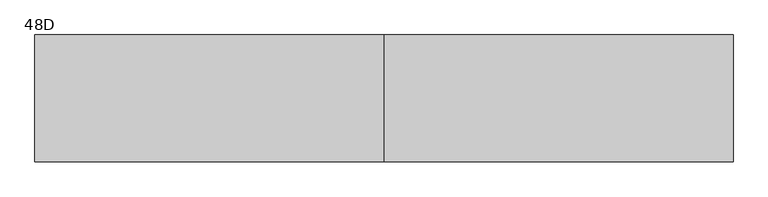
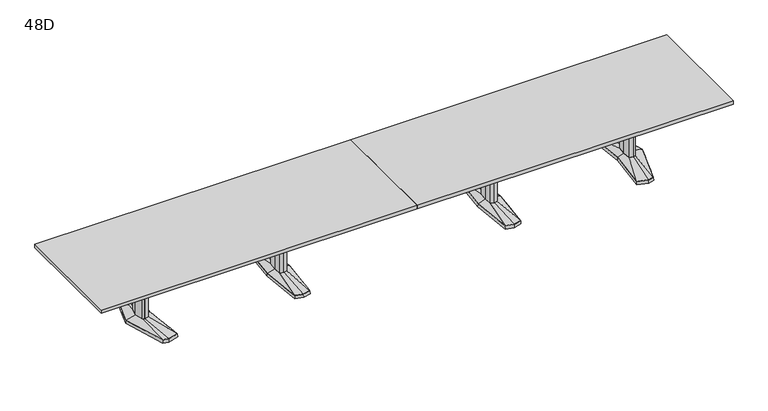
"""IFC4 building model written with IfcOpenShell, lengths in millimetres: furniture geometry, Coalesse_AM_Table_Conference_ETable2_Rectangular_22ft_AluminiumBase : 48D."""

from ifc_helpers import new_model, si_unit, frame, origin, place, context, project, spatial, polyline, outline, extrude, faceted_brep, source, transform, mapped, element, save
from ifc_brep_helpers import plane_surface, spline_surface, advanced_brep


def furniture_48d_4e825bd2(model_context):
    return source(origin(), model_context, "Body", "SolidModel", [
        faceted_brep([(1036.3666209, -433.8053819, 38.1), (1117.6, -455.556576, 38.1), (1198.8333791, -433.8053819, 38.1), (1236.6564774, 0.0, 38.1), (1198.8333791, 433.8053819, 38.1), (1117.6, 455.556576, 38.1), (1036.3666209, 433.8053819, 38.1), (998.5435226, 0.0, 38.1), (1034.8817205, -435.0512063, 3.175), (996.95, 0.0, 3.175), (1034.8817205, 435.0512063, 3.175), (1117.6, 457.2, 3.175), (1200.3182795, 435.0512063, 3.175), (1238.25, 0.0, 3.175), (1200.3182795, -435.0512063, 3.175), (1117.6, -457.2, 3.175), (1117.6, 429.2617927, 3.175), (1039.6323194, 408.3850278, 3.175), (1042.8980179, 382.9646737, 3.175), (1117.6, 402.9670094, 3.175), (1192.3019821, 382.9646737, 3.175), (1195.5676806, 408.3850278, 3.175), (1117.6, -429.2617927, 3.175), (1195.5676806, -408.3850278, 3.175), (1192.3019821, -382.9646737, 3.175), (1117.6, -402.9670094, 3.175), (1042.8980179, -382.9646737, 3.175), (1039.6323194, -408.3850278, 3.175), (1045.7425738, 114.6326257, 3.175), (1035.0573924, 0.0, 3.175), (1045.7425738, -114.6326257, 3.175), (1117.6, -133.8761372, 3.175), (1189.4574262, -114.6326257, 3.175), (1200.1426076, 0.0, 3.175), (1189.4574262, 114.6326257, 3.175), (1117.6, 133.8761372, 3.175), (1117.6, 429.2617927, 0.0), (1195.5676806, 408.3850278, 0.0), (1192.3019821, 382.9646737, 0.0), (1117.6, 402.9670094, 0.0), (1042.8980179, 382.9646737, 0.0), (1039.6323194, 408.3850278, 0.0), (1117.6, -429.2617927, 0.0), (1039.6323194, -408.3850278, 0.0), (1042.8980179, -382.9646737, 0.0), (1117.6, -402.9670094, 0.0), (1192.3019821, -382.9646737, 0.0), (1195.5676806, -408.3850278, 0.0), (1045.7425738, 114.6326257, 0.0), (1117.6, 133.8761372, 0.0), (1189.4574262, 114.6326257, 0.0), (1200.1426076, 0.0, 0.0), (1189.4574262, -114.6326257, 0.0), (1117.6, -133.8761372, 0.0), (1045.7425738, -114.6326257, 0.0), (1035.0573924, 0.0, 0.0)], [[[0, 1, 2, 3, 4, 5, 6, 7]], [[8, 9, 10, 11, 12, 13, 14, 15], [16, 17, 18, 19, 20, 21], [22, 23, 24, 25, 26, 27], [28, 29, 30, 31, 32, 33, 34, 35]], [[1, 0, 8, 15]], [[2, 1, 15, 14]], [[3, 2, 14, 13]], [[4, 3, 13, 12]], [[5, 4, 12, 11]], [[6, 5, 11, 10]], [[7, 6, 10, 9]], [[0, 7, 9, 8]], [[36, 37, 38, 39, 40, 41]], [[42, 43, 44, 45, 46, 47]], [[48, 49, 50, 51, 52, 53, 54, 55]], [[36, 41, 17, 16]], [[41, 40, 18, 17]], [[40, 39, 19, 18]], [[39, 38, 20, 19]], [[38, 37, 21, 20]], [[37, 36, 16, 21]], [[42, 47, 23, 22]], [[47, 46, 24, 23]], [[46, 45, 25, 24]], [[45, 44, 26, 25]], [[44, 43, 27, 26]], [[43, 42, 22, 27]], [[48, 55, 29, 28]], [[55, 54, 30, 29]], [[54, 53, 31, 30]], [[53, 52, 32, 31]], [[52, 51, 33, 32]], [[51, 50, 34, 33]], [[50, 49, 35, 34]], [[49, 48, 28, 35]]]),
        faceted_brep([(1081.2167166, 84.6900825, 698.5), (1073.3225513, 0.0, 698.5), (1081.2167166, -84.6900825, 698.5), (1117.6, -94.4335728, 698.5), (1153.9832834, -84.6900825, 698.5), (1161.8774487, 0.0, 698.5), (1153.9832834, 84.6900825, 698.5), (1117.6, 94.4335728, 698.5), (1081.2167166, 84.6900825, 63.5), (1117.6, 94.4335728, 63.5), (1153.9832834, 84.6900825, 63.5), (1161.8774487, 0.0, 63.5), (1153.9832834, -84.6900825, 63.5), (1117.6, -94.4335728, 63.5), (1081.2167166, -84.6900825, 63.5), (1073.3225513, 0.0, 63.5)], [[[0, 1, 2, 3, 4, 5, 6, 7]], [[8, 9, 10, 11, 12, 13, 14, 15]], [[1, 0, 8, 15]], [[2, 1, 15, 14]], [[3, 2, 14, 13]], [[4, 3, 13, 12]], [[5, 4, 12, 11]], [[6, 5, 11, 10]], [[7, 6, 10, 9]], [[0, 7, 9, 8]]]),
        advanced_brep(
        [(1081.2167166, 84.6900825, 63.5), (1073.3225513, 0.0, 63.5), (1081.2167166, -84.6900825, 63.5), (1117.6, -94.4335728, 63.5), (1153.9832834, -84.6900825, 63.5), (1161.8774487, 0.0, 63.5), (1153.9832834, 84.6900825, 63.5), (1117.6, 94.4335728, 63.5), (1036.3666209, 433.8053819, 38.1), (1117.6, 455.556576, 38.1), (1198.8333791, 433.8053819, 38.1), (1236.6564774, 0.0, 38.1), (1198.8333791, -433.8053819, 38.1), (1117.6, -455.556576, 38.1), (1036.3666209, -433.8053819, 38.1), (998.5435226, 0.0, 38.1)],
        [
            (0, 1),
            (1, 2),
            (2, 3),
            (3, 4),
            (4, 5),
            (5, 6),
            (6, 7),
            (7, 0),
            (8, 9),
            (9, 10),
            (10, 11),
            (11, 12),
            (12, 13),
            (13, 14),
            (14, 15),
            (15, 8),
            (15, 1),
            (0, 8),
            (14, 2),
            (13, 3),
            (12, 4),
            (11, 5),
            (10, 6),
            (9, 7),
        ],
        [
            plane_surface(frame((1117.6, 0.0, 63.5), z_axis=(0.0, 0.0, 1.0000000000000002), x_axis=(-0.9659615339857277, -0.25868574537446, 0.0))),
            plane_surface(frame((1117.6, 0.0, 38.1), z_axis=(0.0, 0.0, -1.0000000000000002), x_axis=(-0.9659615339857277, -0.25868574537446, 0.0))),
            spline_surface(1, 1, [[(1036.3666209, 433.8053819, 38.1), (1081.2167166, 84.6900825, 63.5)], [(998.5435226, 0.0, 38.1), (1073.3225513, 0.0, 63.5)]], [2, 2], [2, 2], [0.0, 1.0], [0.0, 1.0]),
            spline_surface(1, 1, [[(998.5435226, 0.0, 38.1), (1073.3225513, 0.0, 63.5)], [(1036.3666209, -433.8053819, 38.1), (1081.2167166, -84.6900825, 63.5)]], [2, 2], [2, 2], [0.0, 1.0], [0.0, 1.0]),
            spline_surface(1, 1, [[(1036.3666209, -433.8053819, 38.1), (1081.2167166, -84.6900825, 63.5)], [(1117.6, -455.556576, 38.1), (1117.6, -94.4335728, 63.5)]], [2, 2], [2, 2], [0.0, 1.0], [0.0, 1.0]),
            spline_surface(1, 1, [[(1117.6, -455.556576, 38.1), (1117.6, -94.4335728, 63.5)], [(1198.8333791, -433.8053819, 38.1), (1153.9832834, -84.6900825, 63.5)]], [2, 2], [2, 2], [0.0, 1.0], [0.0, 1.0]),
            spline_surface(1, 1, [[(1198.8333791, -433.8053819, 38.1), (1153.9832834, -84.6900825, 63.5)], [(1236.6564774, 0.0, 38.1), (1161.8774487, 0.0, 63.5)]], [2, 2], [2, 2], [0.0, 1.0], [0.0, 1.0]),
            spline_surface(1, 1, [[(1236.6564774, 0.0, 38.1), (1161.8774487, 0.0, 63.5)], [(1198.8333791, 433.8053819, 38.1), (1153.9832834, 84.6900825, 63.5)]], [2, 2], [2, 2], [0.0, 1.0], [0.0, 1.0]),
            spline_surface(1, 1, [[(1198.8333791, 433.8053819, 38.1), (1153.9832834, 84.6900825, 63.5)], [(1117.6, 455.556576, 38.1), (1117.6, 94.4335728, 63.5)]], [2, 2], [2, 2], [0.0, 1.0], [0.0, 1.0]),
            spline_surface(1, 1, [[(1117.6, 455.556576, 38.1), (1117.6, 94.4335728, 63.5)], [(1036.3666209, 433.8053819, 38.1), (1081.2167166, 84.6900825, 63.5)]], [2, 2], [2, 2], [0.0, 1.0], [0.0, 1.0]),
        ],
        [
            (0, [[1, 2, 3, 4, 5, 6, 7, 8]]),
            (1, [[9, 10, 11, 12, 13, 14, 15, 16]]),
            (2, [[-16, 17, -1, 18]]),
            (3, [[-15, 19, -2, -17]]),
            (4, [[-14, 20, -3, -19]]),
            (5, [[-13, 21, -4, -20]]),
            (6, [[-12, 22, -5, -21]]),
            (7, [[-11, 23, -6, -22]]),
            (8, [[-10, 24, -7, -23]]),
            (9, [[-9, -18, -8, -24]]),
        ],
    ),
        faceted_brep([(-1198.8333791, -433.8053819, 38.1), (-1117.6, -455.556576, 38.1), (-1036.3666209, -433.8053819, 38.1), (-998.5435226, 0.0, 38.1), (-1036.3666209, 433.8053819, 38.1), (-1117.6, 455.556576, 38.1), (-1198.8333791, 433.8053819, 38.1), (-1236.6564774, 0.0, 38.1), (-1200.3182795, -435.0512063, 3.175), (-1238.25, 0.0, 3.175), (-1200.3182795, 435.0512063, 3.175), (-1117.6, 457.2, 3.175), (-1034.8817205, 435.0512063, 3.175), (-996.95, 0.0, 3.175), (-1034.8817205, -435.0512063, 3.175), (-1117.6, -457.2, 3.175), (-1117.6, 429.2617927, 3.175), (-1195.5676806, 408.3850278, 3.175), (-1192.3019821, 382.9646737, 3.175), (-1117.6, 402.9670094, 3.175), (-1042.8980179, 382.9646737, 3.175), (-1039.6323194, 408.3850278, 3.175), (-1117.6, -429.2617927, 3.175), (-1039.6323194, -408.3850278, 3.175), (-1042.8980179, -382.9646737, 3.175), (-1117.6, -402.9670094, 3.175), (-1192.3019821, -382.9646737, 3.175), (-1195.5676806, -408.3850278, 3.175), (-1189.4574262, 114.6326257, 3.175), (-1200.1426076, 0.0, 3.175), (-1189.4574262, -114.6326257, 3.175), (-1117.6, -133.8761372, 3.175), (-1045.7425738, -114.6326257, 3.175), (-1035.0573924, 0.0, 3.175), (-1045.7425738, 114.6326257, 3.175), (-1117.6, 133.8761372, 3.175), (-1117.6, 429.2617927, 0.0), (-1039.6323194, 408.3850278, 0.0), (-1042.8980179, 382.9646737, 0.0), (-1117.6, 402.9670094, 0.0), (-1192.3019821, 382.9646737, 0.0), (-1195.5676806, 408.3850278, 0.0), (-1117.6, -429.2617927, 0.0), (-1195.5676806, -408.3850278, 0.0), (-1192.3019821, -382.9646737, 0.0), (-1117.6, -402.9670094, 0.0), (-1042.8980179, -382.9646737, 0.0), (-1039.6323194, -408.3850278, 0.0), (-1189.4574262, 114.6326257, 0.0), (-1117.6, 133.8761372, 0.0), (-1045.7425738, 114.6326257, 0.0), (-1035.0573924, 0.0, 0.0), (-1045.7425738, -114.6326257, 0.0), (-1117.6, -133.8761372, 0.0), (-1189.4574262, -114.6326257, 0.0), (-1200.1426076, 0.0, 0.0)], [[[0, 1, 2, 3, 4, 5, 6, 7]], [[8, 9, 10, 11, 12, 13, 14, 15], [16, 17, 18, 19, 20, 21], [22, 23, 24, 25, 26, 27], [28, 29, 30, 31, 32, 33, 34, 35]], [[1, 0, 8, 15]], [[2, 1, 15, 14]], [[3, 2, 14, 13]], [[4, 3, 13, 12]], [[5, 4, 12, 11]], [[6, 5, 11, 10]], [[7, 6, 10, 9]], [[0, 7, 9, 8]], [[36, 37, 38, 39, 40, 41]], [[42, 43, 44, 45, 46, 47]], [[48, 49, 50, 51, 52, 53, 54, 55]], [[36, 41, 17, 16]], [[41, 40, 18, 17]], [[40, 39, 19, 18]], [[39, 38, 20, 19]], [[38, 37, 21, 20]], [[37, 36, 16, 21]], [[42, 47, 23, 22]], [[47, 46, 24, 23]], [[46, 45, 25, 24]], [[45, 44, 26, 25]], [[44, 43, 27, 26]], [[43, 42, 22, 27]], [[48, 55, 29, 28]], [[55, 54, 30, 29]], [[54, 53, 31, 30]], [[53, 52, 32, 31]], [[52, 51, 33, 32]], [[51, 50, 34, 33]], [[50, 49, 35, 34]], [[49, 48, 28, 35]]]),
        faceted_brep([(-1153.9832834, 84.6900825, 698.5), (-1161.8774487, 0.0, 698.5), (-1153.9832834, -84.6900825, 698.5), (-1117.6, -94.4335728, 698.5), (-1081.2167166, -84.6900825, 698.5), (-1073.3225513, 0.0, 698.5), (-1081.2167166, 84.6900825, 698.5), (-1117.6, 94.4335728, 698.5), (-1153.9832834, 84.6900825, 63.5), (-1117.6, 94.4335728, 63.5), (-1081.2167166, 84.6900825, 63.5), (-1073.3225513, 0.0, 63.5), (-1081.2167166, -84.6900825, 63.5), (-1117.6, -94.4335728, 63.5), (-1153.9832834, -84.6900825, 63.5), (-1161.8774487, 0.0, 63.5)], [[[0, 1, 2, 3, 4, 5, 6, 7]], [[8, 9, 10, 11, 12, 13, 14, 15]], [[1, 0, 8, 15]], [[2, 1, 15, 14]], [[3, 2, 14, 13]], [[4, 3, 13, 12]], [[5, 4, 12, 11]], [[6, 5, 11, 10]], [[7, 6, 10, 9]], [[0, 7, 9, 8]]]),
        advanced_brep(
        [(-1153.9832834, 84.6900825, 63.5), (-1161.8774487, 0.0, 63.5), (-1153.9832834, -84.6900825, 63.5), (-1117.6, -94.4335728, 63.5), (-1081.2167166, -84.6900825, 63.5), (-1073.3225513, 0.0, 63.5), (-1081.2167166, 84.6900825, 63.5), (-1117.6, 94.4335728, 63.5), (-1198.8333791, 433.8053819, 38.1), (-1117.6, 455.556576, 38.1), (-1036.3666209, 433.8053819, 38.1), (-998.5435226, 0.0, 38.1), (-1036.3666209, -433.8053819, 38.1), (-1117.6, -455.556576, 38.1), (-1198.8333791, -433.8053819, 38.1), (-1236.6564774, 0.0, 38.1)],
        [
            (0, 1),
            (1, 2),
            (2, 3),
            (3, 4),
            (4, 5),
            (5, 6),
            (6, 7),
            (7, 0),
            (8, 9),
            (9, 10),
            (10, 11),
            (11, 12),
            (12, 13),
            (13, 14),
            (14, 15),
            (15, 8),
            (15, 1),
            (0, 8),
            (14, 2),
            (13, 3),
            (12, 4),
            (11, 5),
            (10, 6),
            (9, 7),
        ],
        [
            plane_surface(frame((-1117.6, 0.0, 63.5), z_axis=(0.0, 0.0, 1.0000000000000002), x_axis=(-0.9659615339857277, -0.25868574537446, 0.0))),
            plane_surface(frame((-1117.6, 0.0, 38.1), z_axis=(0.0, 0.0, -1.0000000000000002), x_axis=(-0.9659615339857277, -0.25868574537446, 0.0))),
            spline_surface(1, 1, [[(-1198.8333791, 433.8053819, 38.1), (-1153.9832834, 84.6900825, 63.5)], [(-1236.6564774, 0.0, 38.1), (-1161.8774487, 0.0, 63.5)]], [2, 2], [2, 2], [0.0, 1.0], [0.0, 1.0]),
            spline_surface(1, 1, [[(-1236.6564774, 0.0, 38.1), (-1161.8774487, 0.0, 63.5)], [(-1198.8333791, -433.8053819, 38.1), (-1153.9832834, -84.6900825, 63.5)]], [2, 2], [2, 2], [0.0, 1.0], [0.0, 1.0]),
            spline_surface(1, 1, [[(-1198.8333791, -433.8053819, 38.1), (-1153.9832834, -84.6900825, 63.5)], [(-1117.6, -455.556576, 38.1), (-1117.6, -94.4335728, 63.5)]], [2, 2], [2, 2], [0.0, 1.0], [0.0, 1.0]),
            spline_surface(1, 1, [[(-1117.6, -455.556576, 38.1), (-1117.6, -94.4335728, 63.5)], [(-1036.3666209, -433.8053819, 38.1), (-1081.2167166, -84.6900825, 63.5)]], [2, 2], [2, 2], [0.0, 1.0], [0.0, 1.0]),
            spline_surface(1, 1, [[(-1036.3666209, -433.8053819, 38.1), (-1081.2167166, -84.6900825, 63.5)], [(-998.5435226, 0.0, 38.1), (-1073.3225513, 0.0, 63.5)]], [2, 2], [2, 2], [0.0, 1.0], [0.0, 1.0]),
            spline_surface(1, 1, [[(-998.5435226, 0.0, 38.1), (-1073.3225513, 0.0, 63.5)], [(-1036.3666209, 433.8053819, 38.1), (-1081.2167166, 84.6900825, 63.5)]], [2, 2], [2, 2], [0.0, 1.0], [0.0, 1.0]),
            spline_surface(1, 1, [[(-1036.3666209, 433.8053819, 38.1), (-1081.2167166, 84.6900825, 63.5)], [(-1117.6, 455.556576, 38.1), (-1117.6, 94.4335728, 63.5)]], [2, 2], [2, 2], [0.0, 1.0], [0.0, 1.0]),
            spline_surface(1, 1, [[(-1117.6, 455.556576, 38.1), (-1117.6, 94.4335728, 63.5)], [(-1198.8333791, 433.8053819, 38.1), (-1153.9832834, 84.6900825, 63.5)]], [2, 2], [2, 2], [0.0, 1.0], [0.0, 1.0]),
        ],
        [
            (0, [[1, 2, 3, 4, 5, 6, 7, 8]]),
            (1, [[9, 10, 11, 12, 13, 14, 15, 16]]),
            (2, [[-16, 17, -1, 18]]),
            (3, [[-15, 19, -2, -17]]),
            (4, [[-14, 20, -3, -19]]),
            (5, [[-13, 21, -4, -20]]),
            (6, [[-12, 22, -5, -21]]),
            (7, [[-11, 23, -6, -22]]),
            (8, [[-10, 24, -7, -23]]),
            (9, [[-9, -18, -8, -24]]),
        ],
    ),
        faceted_brep([(2548.0994335, 455.5848221, 38.1), (2438.5218777, 426.2263816, 38.1), (2479.6851217, 0.0, 38.1), (2438.5218777, -426.2263816, 38.1), (2548.0994335, -455.5848221, 38.1), (2604.2257896, -440.5478297, 38.1), (2741.5371769, 0.0, 38.1), (2604.2257896, 440.5478297, 38.1), (2548.0994254, 457.2283104, 3.175), (2605.4811972, 441.8549756, 3.175), (2743.2, 0.0, 3.175), (2605.4811972, -441.8549756, 3.175), (2548.0994254, -457.2283104, 3.175), (2436.8125, -427.4118891, 3.175), (2478.0902356, 0.0, 3.175), (2436.8125, 427.4118891, 3.175), (2551.688865, 428.3273875, 3.175), (2446.6405728, 402.1057253, 3.175), (2454.759268, 377.985069, 3.175), (2555.2782966, 401.0699529, 3.175), (2605.8379225, 387.524361, 3.175), (2605.0318561, 414.0360954, 3.175), (2551.688865, -428.3273875, 3.175), (2605.0318561, -414.0360954, 3.175), (2605.8379225, -387.524361, 3.175), (2555.2782966, -401.0699529, 3.175), (2454.759268, -377.985069, 3.175), (2446.6405728, -402.1057253, 3.175), (2678.2841121, 0.0, 3.175), (2646.0147111, 120.4193755, 3.175), (2597.3674722, 133.471665, 3.175), (2517.4868026, 119.4176561, 3.175), (2506.3555966, 0.0, 3.175), (2517.4868026, -119.4176561, 3.175), (2597.3674722, -133.471665, 3.175), (2646.0147111, -120.4193755, 3.175), (2551.688865, 428.3273875, 0.0), (2605.0318561, 414.0360954, 0.0), (2605.8379225, 387.524361, 0.0), (2555.2782966, 401.0699529, 0.0), (2454.759268, 377.985069, 0.0), (2446.6405728, 402.1057253, 0.0), (2551.688865, -428.3273875, 0.0), (2446.6405728, -402.1057253, 0.0), (2454.759268, -377.985069, 0.0), (2555.2782966, -401.0699529, 0.0), (2605.8379225, -387.524361, 0.0), (2605.0318561, -414.0360954, 0.0), (2678.2841121, 0.0, 0.0), (2646.0147111, -120.4193755, 0.0), (2597.3674722, -133.471665, 0.0), (2517.4868026, -119.4176561, 0.0), (2506.3555966, 0.0, 0.0), (2517.4868026, 119.4176561, 0.0), (2597.3674722, 133.471665, 0.0), (2646.0147111, 120.4193755, 0.0)], [[[0, 1, 2, 3, 4, 5, 6, 7]], [[8, 9, 10, 11, 12, 13, 14, 15], [16, 17, 18, 19, 20, 21], [22, 23, 24, 25, 26, 27], [28, 29, 30, 31, 32, 33, 34, 35]], [[7, 9, 8, 0]], [[6, 10, 9, 7]], [[5, 11, 10, 6]], [[4, 12, 11, 5]], [[3, 13, 12, 4]], [[2, 14, 13, 3]], [[1, 15, 14, 2]], [[0, 8, 15, 1]], [[36, 37, 38, 39, 40, 41]], [[42, 43, 44, 45, 46, 47]], [[48, 49, 50, 51, 52, 53, 54, 55]], [[36, 16, 21, 37]], [[37, 21, 20, 38]], [[38, 20, 19, 39]], [[39, 19, 18, 40]], [[40, 18, 17, 41]], [[41, 17, 16, 36]], [[42, 22, 27, 43]], [[43, 27, 26, 44]], [[44, 26, 25, 45]], [[45, 25, 24, 46]], [[46, 24, 23, 47]], [[47, 23, 22, 42]], [[48, 28, 35, 49]], [[49, 35, 34, 50]], [[50, 34, 33, 51]], [[51, 33, 32, 52]], [[52, 32, 31, 53]], [[53, 31, 30, 54]], [[54, 30, 29, 55]], [[55, 29, 28, 48]]]),
        faceted_brep([(2638.8398336, 0.0, 698.5), (2614.9046046, 89.3188359, 698.5), (2598.0512484, 93.8406728, 698.5), (2595.6514011, 94.4845635, 698.5), (2552.723896, 86.9320037, 698.5), (2544.6207556, 0.0, 698.5), (2552.723896, -86.9320037, 698.5), (2595.6514011, -94.4845635, 698.5), (2598.0512484, -93.8406728, 698.5), (2614.9046046, -89.3188359, 698.5), (2638.8398336, 0.0, 63.5), (2614.9046046, -89.3188359, 63.5), (2598.0512484, -93.8406728, 63.5), (2595.6514011, -94.4845635, 63.5), (2552.723896, -86.9320037, 63.5), (2544.6207556, 0.0, 63.5), (2552.723896, 86.9320037, 63.5), (2595.6514011, 94.4845635, 63.5), (2598.0512484, 93.8406728, 63.5), (2614.9046046, 89.3188359, 63.5)], [[[0, 1, 2, 3, 4, 5, 6, 7, 8, 9]], [[10, 11, 12, 13, 14, 15, 16, 17, 18, 19]], [[9, 11, 10, 0]], [[8, 12, 11, 9]], [[7, 13, 12, 8]], [[6, 14, 13, 7]], [[5, 15, 14, 6]], [[4, 16, 15, 5]], [[3, 17, 16, 4]], [[2, 18, 17, 3]], [[1, 19, 18, 2]], [[0, 10, 19, 1]]]),
        advanced_brep(
        [(2595.6514011, 94.4845635, 63.5), (2552.723896, 86.9320037, 63.5), (2544.6207556, 0.0, 63.5), (2552.723896, -86.9320037, 63.5), (2595.6514011, -94.4845635, 63.5), (2614.9046046, -89.3188359, 63.5), (2638.8398336, 0.0, 63.5), (2614.9046046, 89.3188359, 63.5), (2548.0994335, 455.5848221, 38.1), (2604.2257896, 440.5478297, 38.1), (2741.5371769, 0.0, 38.1), (2604.2257896, -440.5478297, 38.1), (2548.0994335, -455.5848221, 38.1), (2438.5218777, -426.2263816, 38.1), (2479.6851217, 0.0, 38.1), (2438.5218777, 426.2263816, 38.1)],
        [
            (0, 1),
            (1, 2),
            (2, 3),
            (3, 4),
            (4, 5),
            (5, 6),
            (6, 7),
            (7, 0),
            (8, 9),
            (9, 10),
            (10, 11),
            (11, 12),
            (12, 13),
            (13, 14),
            (14, 15),
            (15, 8),
            (8, 0),
            (7, 9),
            (6, 10),
            (5, 11),
            (4, 12),
            (3, 13),
            (2, 14),
            (1, 15),
        ],
        [
            plane_surface(frame((2588.7525491, 0.0, 63.5), z_axis=(0.0, 0.0, 1.0), x_axis=(-0.25884244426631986, -0.9659195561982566, 0.0))),
            plane_surface(frame((2550.3645625, 0.0, 38.1), z_axis=(0.0, 0.0, -1.0), x_axis=(-0.25884244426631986, -0.9659195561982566, 0.0))),
            spline_surface(1, 1, [[(2548.0994335, 455.5848221, 38.1), (2604.2257896, 440.5478297, 38.1)], [(2595.6514011, 94.4845635, 63.5), (2614.9046046, 89.3188359, 63.5)]], [2, 2], [2, 2], [0.0, 1.0], [0.0, 1.0]),
            spline_surface(1, 1, [[(2604.2257896, 440.5478297, 38.1), (2741.5371769, 0.0, 38.1)], [(2614.9046046, 89.3188359, 63.5), (2638.8398336, 0.0, 63.5)]], [2, 2], [2, 2], [0.0, 1.0], [0.0, 1.0]),
            spline_surface(1, 1, [[(2741.5371769, 0.0, 38.1), (2604.2257896, -440.5478297, 38.1)], [(2638.8398336, 0.0, 63.5), (2614.9046046, -89.3188359, 63.5)]], [2, 2], [2, 2], [0.0, 1.0], [0.0, 1.0]),
            spline_surface(1, 1, [[(2604.2257896, -440.5478297, 38.1), (2548.0994335, -455.5848221, 38.1)], [(2614.9046046, -89.3188359, 63.5), (2595.6514011, -94.4845635, 63.5)]], [2, 2], [2, 2], [0.0, 1.0], [0.0, 1.0]),
            spline_surface(1, 1, [[(2548.0994335, -455.5848221, 38.1), (2438.5218777, -426.2263816, 38.1)], [(2595.6514011, -94.4845635, 63.5), (2552.723896, -86.9320037, 63.5)]], [2, 2], [2, 2], [0.0, 1.0], [0.0, 1.0]),
            spline_surface(1, 1, [[(2438.5218777, -426.2263816, 38.1), (2479.6851217, 0.0, 38.1)], [(2552.723896, -86.9320037, 63.5), (2544.6207556, 0.0, 63.5)]], [2, 2], [2, 2], [0.0, 1.0], [0.0, 1.0]),
            spline_surface(1, 1, [[(2479.6851217, 0.0, 38.1), (2438.5218777, 426.2263816, 38.1)], [(2544.6207556, 0.0, 63.5), (2552.723896, 86.9320037, 63.5)]], [2, 2], [2, 2], [0.0, 1.0], [0.0, 1.0]),
            spline_surface(1, 1, [[(2438.5218777, 426.2263816, 38.1), (2548.0994335, 455.5848221, 38.1)], [(2552.723896, 86.9320037, 63.5), (2595.6514011, 94.4845635, 63.5)]], [2, 2], [2, 2], [0.0, 1.0], [0.0, 1.0]),
        ],
        [
            (0, [[1, 2, 3, 4, 5, 6, 7, 8]]),
            (1, [[9, 10, 11, 12, 13, 14, 15, 16]]),
            (2, [[17, -8, 18, -9]]),
            (3, [[-18, -7, 19, -10]]),
            (4, [[-19, -6, 20, -11]]),
            (5, [[-20, -5, 21, -12]]),
            (6, [[-21, -4, 22, -13]]),
            (7, [[-22, -3, 23, -14]]),
            (8, [[-23, -2, 24, -15]]),
            (9, [[-24, -1, -17, -16]]),
        ],
    ),
        faceted_brep([(-2548.0994335, 455.5848221, 38.1), (-2604.2257896, 440.5478297, 38.1), (-2741.5371769, 0.0, 38.1), (-2604.2257896, -440.5478297, 38.1), (-2548.0994335, -455.5848221, 38.1), (-2438.5218777, -426.2263816, 38.1), (-2479.6851217, 0.0, 38.1), (-2438.5218777, 426.2263816, 38.1), (-2548.0994254, 457.2283104, 3.175), (-2436.8125, 427.4118891, 3.175), (-2478.0902356, 0.0, 3.175), (-2436.8125, -427.4118891, 3.175), (-2548.0994254, -457.2283104, 3.175), (-2605.4811972, -441.8549756, 3.175), (-2743.2, 0.0, 3.175), (-2605.4811972, 441.8549756, 3.175), (-2551.688865, 428.3273875, 3.175), (-2605.0318561, 414.0360954, 3.175), (-2605.8379225, 387.524361, 3.175), (-2555.2782966, 401.0699529, 3.175), (-2454.759268, 377.985069, 3.175), (-2446.6405728, 402.1057253, 3.175), (-2551.688865, -428.3273875, 3.175), (-2446.6405728, -402.1057253, 3.175), (-2454.759268, -377.985069, 3.175), (-2555.2782966, -401.0699529, 3.175), (-2605.8379225, -387.524361, 3.175), (-2605.0318561, -414.0360954, 3.175), (-2678.2841121, 0.0, 3.175), (-2646.0147111, -120.4193755, 3.175), (-2597.3674722, -133.471665, 3.175), (-2517.4868026, -119.4176561, 3.175), (-2506.3555966, 0.0, 3.175), (-2517.4868026, 119.4176561, 3.175), (-2597.3674722, 133.471665, 3.175), (-2646.0147111, 120.4193755, 3.175), (-2551.688865, 428.3273875, 0.0), (-2446.6405728, 402.1057253, 0.0), (-2454.759268, 377.985069, 0.0), (-2555.2782966, 401.0699529, 0.0), (-2605.8379225, 387.524361, 0.0), (-2605.0318561, 414.0360954, 0.0), (-2551.688865, -428.3273875, 0.0), (-2605.0318561, -414.0360954, 0.0), (-2605.8379225, -387.524361, 0.0), (-2555.2782966, -401.0699529, 0.0), (-2454.759268, -377.985069, 0.0), (-2446.6405728, -402.1057253, 0.0), (-2678.2841121, 0.0, 0.0), (-2646.0147111, 120.4193755, 0.0), (-2597.3674722, 133.471665, 0.0), (-2517.4868026, 119.4176561, 0.0), (-2506.3555966, 0.0, 0.0), (-2517.4868026, -119.4176561, 0.0), (-2597.3674722, -133.471665, 0.0), (-2646.0147111, -120.4193755, 0.0)], [[[0, 1, 2, 3, 4, 5, 6, 7]], [[8, 9, 10, 11, 12, 13, 14, 15], [16, 17, 18, 19, 20, 21], [22, 23, 24, 25, 26, 27], [28, 29, 30, 31, 32, 33, 34, 35]], [[1, 0, 8, 15]], [[2, 1, 15, 14]], [[3, 2, 14, 13]], [[4, 3, 13, 12]], [[5, 4, 12, 11]], [[6, 5, 11, 10]], [[7, 6, 10, 9]], [[0, 7, 9, 8]], [[36, 37, 38, 39, 40, 41]], [[42, 43, 44, 45, 46, 47]], [[48, 49, 50, 51, 52, 53, 54, 55]], [[36, 41, 17, 16]], [[41, 40, 18, 17]], [[40, 39, 19, 18]], [[39, 38, 20, 19]], [[38, 37, 21, 20]], [[37, 36, 16, 21]], [[42, 47, 23, 22]], [[47, 46, 24, 23]], [[46, 45, 25, 24]], [[45, 44, 26, 25]], [[44, 43, 27, 26]], [[43, 42, 22, 27]], [[48, 55, 29, 28]], [[55, 54, 30, 29]], [[54, 53, 31, 30]], [[53, 52, 32, 31]], [[52, 51, 33, 32]], [[51, 50, 34, 33]], [[50, 49, 35, 34]], [[49, 48, 28, 35]]]),
        faceted_brep([(-2638.8398336, 0.0, 698.5), (-2614.9046046, -89.3188359, 698.5), (-2598.0512484, -93.8406728, 698.5), (-2595.6514011, -94.4845635, 698.5), (-2552.723896, -86.9320037, 698.5), (-2544.6207556, 0.0, 698.5), (-2552.723896, 86.9320037, 698.5), (-2595.6514011, 94.4845635, 698.5), (-2598.0512484, 93.8406728, 698.5), (-2614.9046046, 89.3188359, 698.5), (-2638.8398336, 0.0, 63.5), (-2614.9046046, 89.3188359, 63.5), (-2598.0512484, 93.8406728, 63.5), (-2595.6514011, 94.4845635, 63.5), (-2552.723896, 86.9320037, 63.5), (-2544.6207556, 0.0, 63.5), (-2552.723896, -86.9320037, 63.5), (-2595.6514011, -94.4845635, 63.5), (-2598.0512484, -93.8406728, 63.5), (-2614.9046046, -89.3188359, 63.5)], [[[0, 1, 2, 3, 4, 5, 6, 7, 8, 9]], [[10, 11, 12, 13, 14, 15, 16, 17, 18, 19]], [[1, 0, 10, 19]], [[2, 1, 19, 18]], [[3, 2, 18, 17]], [[4, 3, 17, 16]], [[5, 4, 16, 15]], [[6, 5, 15, 14]], [[7, 6, 14, 13]], [[8, 7, 13, 12]], [[9, 8, 12, 11]], [[0, 9, 11, 10]]]),
        advanced_brep(
        [(-2595.6514011, 94.4845635, 63.5), (-2614.9046046, 89.3188359, 63.5), (-2638.8398336, 0.0, 63.5), (-2614.9046046, -89.3188359, 63.5), (-2595.6514011, -94.4845635, 63.5), (-2552.723896, -86.9320037, 63.5), (-2544.6207556, 0.0, 63.5), (-2552.723896, 86.9320037, 63.5), (-2548.0994335, 455.5848221, 38.1), (-2438.5218777, 426.2263816, 38.1), (-2479.6851217, 0.0, 38.1), (-2438.5218777, -426.2263816, 38.1), (-2548.0994335, -455.5848221, 38.1), (-2604.2257896, -440.5478297, 38.1), (-2741.5371769, 0.0, 38.1), (-2604.2257896, 440.5478297, 38.1)],
        [
            (0, 1),
            (1, 2),
            (2, 3),
            (3, 4),
            (4, 5),
            (5, 6),
            (6, 7),
            (7, 0),
            (8, 9),
            (9, 10),
            (10, 11),
            (11, 12),
            (12, 13),
            (13, 14),
            (14, 15),
            (15, 8),
            (15, 1),
            (0, 8),
            (14, 2),
            (13, 3),
            (12, 4),
            (11, 5),
            (10, 6),
            (9, 7),
        ],
        [
            plane_surface(frame((-2588.7525491, 0.0, 63.5), z_axis=(0.0, 0.0, 1.0), x_axis=(0.25884244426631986, -0.9659195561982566, 0.0))),
            plane_surface(frame((-2550.3645625, 0.0, 38.1), z_axis=(0.0, 0.0, -1.0), x_axis=(0.25884244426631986, -0.9659195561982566, 0.0))),
            spline_surface(1, 1, [[(-2548.0994335, 455.5848221, 38.1), (-2595.6514011, 94.4845635, 63.5)], [(-2604.2257896, 440.5478297, 38.1), (-2614.9046046, 89.3188359, 63.5)]], [2, 2], [2, 2], [0.0, 1.0], [0.0, 1.0]),
            spline_surface(1, 1, [[(-2604.2257896, 440.5478297, 38.1), (-2614.9046046, 89.3188359, 63.5)], [(-2741.5371769, 0.0, 38.1), (-2638.8398336, 0.0, 63.5)]], [2, 2], [2, 2], [0.0, 1.0], [0.0, 1.0]),
            spline_surface(1, 1, [[(-2741.5371769, 0.0, 38.1), (-2638.8398336, 0.0, 63.5)], [(-2604.2257896, -440.5478297, 38.1), (-2614.9046046, -89.3188359, 63.5)]], [2, 2], [2, 2], [0.0, 1.0], [0.0, 1.0]),
            spline_surface(1, 1, [[(-2604.2257896, -440.5478297, 38.1), (-2614.9046046, -89.3188359, 63.5)], [(-2548.0994335, -455.5848221, 38.1), (-2595.6514011, -94.4845635, 63.5)]], [2, 2], [2, 2], [0.0, 1.0], [0.0, 1.0]),
            spline_surface(1, 1, [[(-2548.0994335, -455.5848221, 38.1), (-2595.6514011, -94.4845635, 63.5)], [(-2438.5218777, -426.2263816, 38.1), (-2552.723896, -86.9320037, 63.5)]], [2, 2], [2, 2], [0.0, 1.0], [0.0, 1.0]),
            spline_surface(1, 1, [[(-2438.5218777, -426.2263816, 38.1), (-2552.723896, -86.9320037, 63.5)], [(-2479.6851217, 0.0, 38.1), (-2544.6207556, 0.0, 63.5)]], [2, 2], [2, 2], [0.0, 1.0], [0.0, 1.0]),
            spline_surface(1, 1, [[(-2479.6851217, 0.0, 38.1), (-2544.6207556, 0.0, 63.5)], [(-2438.5218777, 426.2263816, 38.1), (-2552.723896, 86.9320037, 63.5)]], [2, 2], [2, 2], [0.0, 1.0], [0.0, 1.0]),
            spline_surface(1, 1, [[(-2438.5218777, 426.2263816, 38.1), (-2552.723896, 86.9320037, 63.5)], [(-2548.0994335, 455.5848221, 38.1), (-2595.6514011, 94.4845635, 63.5)]], [2, 2], [2, 2], [0.0, 1.0], [0.0, 1.0]),
        ],
        [
            (0, [[1, 2, 3, 4, 5, 6, 7, 8]]),
            (1, [[9, 10, 11, 12, 13, 14, 15, 16]]),
            (2, [[-16, 17, -1, 18]]),
            (3, [[-15, 19, -2, -17]]),
            (4, [[-14, 20, -3, -19]]),
            (5, [[-13, 21, -4, -20]]),
            (6, [[-12, 22, -5, -21]]),
            (7, [[-11, 23, -6, -22]]),
            (8, [[-10, 24, -7, -23]]),
            (9, [[-9, -18, -8, -24]]),
        ],
    ),
        extrude(outline(polyline([(96.8375, 698.5), (103.1875, 698.5), (103.1875, 476.25), (-103.1875, 476.25), (-103.1875, 698.5), (-96.8375, 698.5), (-96.8375, 482.6), (96.8375, 482.6), (96.8375, 698.5)])), frame((1161.8774487, 0.0, 0.0), z_axis=(1.0, 0.0, 0.0), x_axis=(0.0, 1.0, 0.0)), (0.0, 0.0, 1.0), 1382.8850513),
        extrude(outline(polyline([(96.8375, 698.5), (103.1875, 698.5), (103.1875, 476.25), (-103.1875, 476.25), (-103.1875, 698.5), (-96.8375, 698.5), (-96.8375, 482.6), (96.8375, 482.6), (96.8375, 698.5)])), frame((-1073.3225513, 0.0, 0.0), z_axis=(1.0, 0.0, 0.0), x_axis=(0.0, 1.0, 0.0)), (0.0, 0.0, 1.0), 2146.6451026),
        extrude(outline(polyline([(3352.8, 609.6), (3352.8, -609.6), (0.0, -609.6), (0.0, 609.6), (3352.8, 609.6)])), frame((0.0, 0.0, 698.5), z_axis=(0.0, 0.0, 1.0), x_axis=(1.0, 0.0, 0.0)), (0.0, 0.0, 1.0), 38.1),
        extrude(outline(polyline([(0.0, 609.6), (0.0, -609.6), (-3352.8, -609.6), (-3352.8, 609.6), (0.0, 609.6)])), frame((0.0, 0.0, 698.5), z_axis=(0.0, 0.0, 1.0), x_axis=(1.0, 0.0, 0.0)), (0.0, 0.0, 1.0), 38.1),
        extrude(outline(polyline([(96.8375, 698.5), (103.1875, 698.5), (103.1875, 476.25), (-103.1875, 476.25), (-103.1875, 698.5), (-96.8375, 698.5), (-96.8375, 482.6), (96.8375, 482.6), (96.8375, 698.5)])), frame((-2544.7625, 0.0, 0.0), z_axis=(1.0, 0.0, 0.0), x_axis=(0.0, 1.0, 0.0)), (0.0, 0.0, 1.0), 1382.8850513),
    ])


if __name__ == "__main__":
    model = new_model("IFC4")
    model_context = context("Model", 3, world=origin())
    ifc_project = project(units=[si_unit("LENGTHUNIT", "METRE", prefix="MILLI")], contexts=[model_context])
    site = spatial("IfcSite", under=ifc_project)
    building = spatial("IfcBuilding", under=site)
    placement = place(None, origin())
    furniture_48d_shape = furniture_48d_4e825bd2(model_context)
    element("IfcFurniture", 1, ObjectType="Coalesse_AM_Table_Conference_ETable2_Rectangular_22ft_AluminiumBase : 48D", at=placement, inside=building, context=model_context, shape_type="MappedRepresentation", body=[
        mapped(furniture_48d_shape, transform((0.0, 0.0, 0.0), x_axis=(1.0, 0.0, 0.0), y_axis=(0.0, 1.0, 0.0), z_axis=(0.0, 0.0, 1.0))),
    ])
    save(model, "model.ifc")
